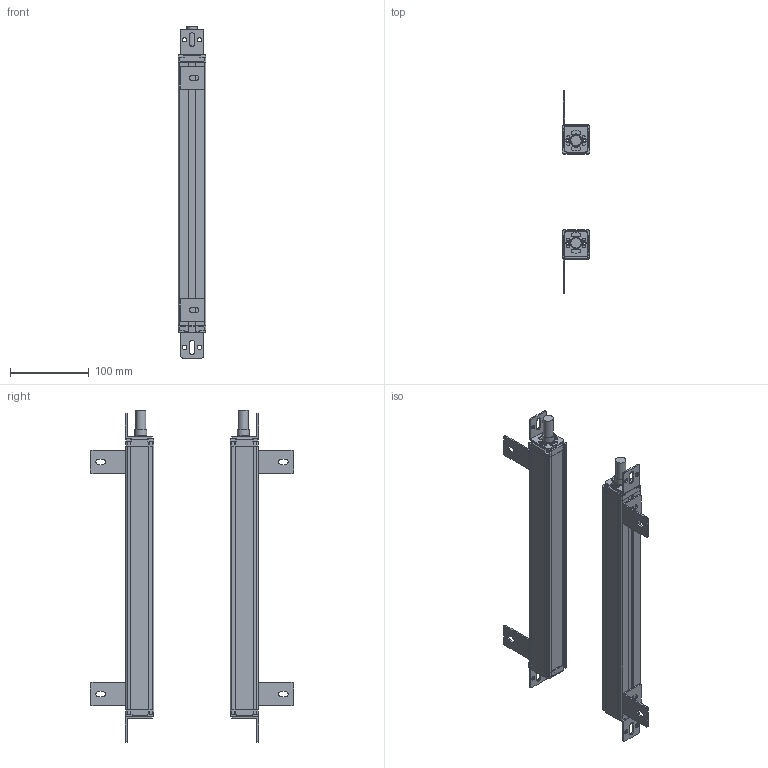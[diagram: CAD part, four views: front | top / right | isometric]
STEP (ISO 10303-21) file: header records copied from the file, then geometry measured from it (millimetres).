
FILE_DESCRIPTION(/* description */ (''),/* implementation_level */ '2;1');
FILE_NAME(/* name */ '0840_35X35.stp',/* time_stamp */ '2023-09-18T15:50:44+08:00',/* author */ (''),/* organization */ (''),/* preprocessor_version */ 'ST-DEVELOPER v16.7',/* originating_system */ 'SIEMENS PLM Software NX 12.0',/* authorisation */ '');
FILE_SCHEMA (('AP203_CONFIGURATION_CONTROLLED_3D_DESIGN_OF_MECHANICAL_PARTS_AND_ASSEMBLIES_MIM_LF { 1 0 10303 403 2 1 2}'));
Length unit declared in the file: millimetre
Products named in the file (1): 0840_35X35_stp
Bounding box: 35.41 x 258.01 x 421.6 mm (x, y, z)
Volume: 378600.6 mm3; surface area: 293215.8 mm2
Topology: 28 solids, 28 shells, 1182 faces, 3360 edges, 2260 vertices
Faces by surface type: plane 658, cylinder 464, cone 60
Full cylindrical faces by diameter (mm): 3.2 x8, 6 x24, 13 x2, 14.4 x2, 15 x2
Entity records: 39055 total; most frequent: DIRECTION 6832, CARTESIAN_POINT 6745, ORIENTED_EDGE 6612, EDGE_CURVE 3306, AXIS2_PLACEMENT_3D 2347, VERTEX_POINT 2244, LINE 2138, VECTOR 2138
